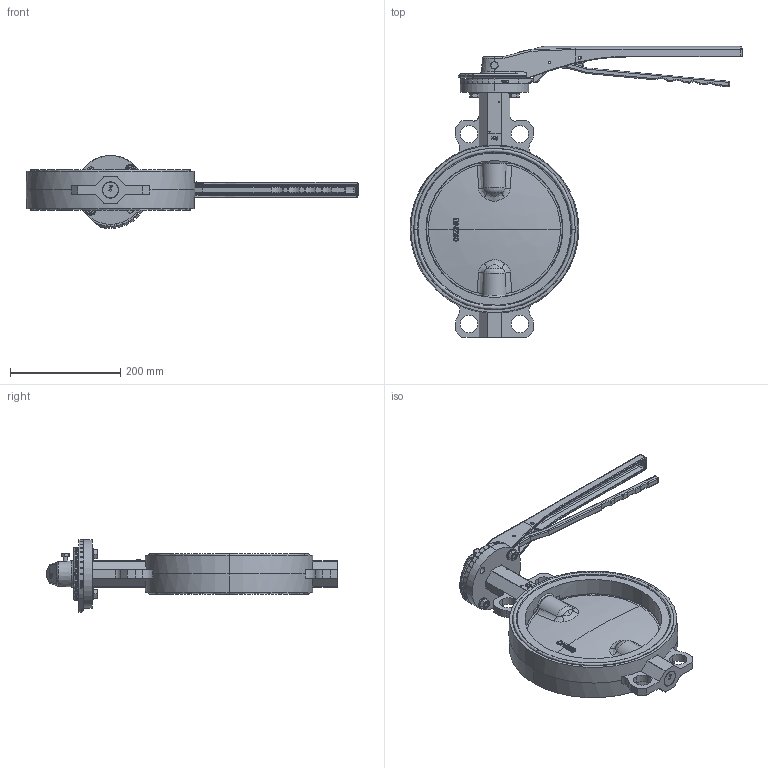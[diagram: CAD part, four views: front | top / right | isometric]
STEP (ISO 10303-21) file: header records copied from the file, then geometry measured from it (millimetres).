
FILE_DESCRIPTION (( 'STEP AP203' ), '1' );
FILE_NAME ('VPI-02 DN250.step', '2016-09-29T12:53:33', ( 'TECOFI' ), ( '' ), 'SwSTEP 2.0', 'SolidWorks 2014', '' );
FILE_SCHEMA (( 'CONFIG_CONTROL_DESIGN' ));
Length unit declared in the file: millimetre
Products named in the file (1): VPI-02 DN250
Bounding box: 603.5 x 529.1 x 132.46 mm (x, y, z)
Volume: 3365613.5 mm3; surface area: 590294.4 mm2
Topology: 17 solids, 17 shells, 1642 faces, 4230 edges, 2626 vertices
Faces by surface type: plane 605, cylinder 417, bspline 393, cone 109, sphere 65, torus 53
Entity records: 75612 total; most frequent: CARTESIAN_POINT 39136, ORIENTED_EDGE 8278, DIRECTION 6581, EDGE_CURVE 4139, VERTEX_POINT 2614, AXIS2_PLACEMENT_3D 2373, LINE 1835, VECTOR 1835
